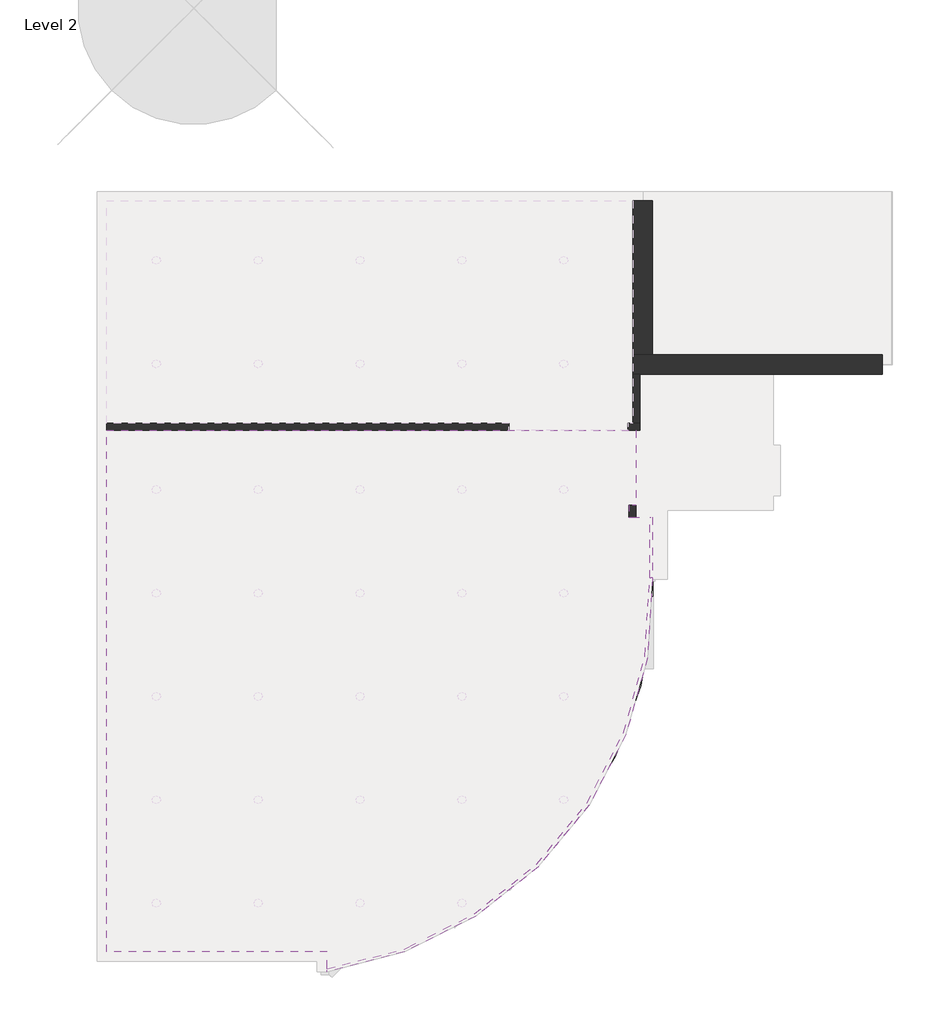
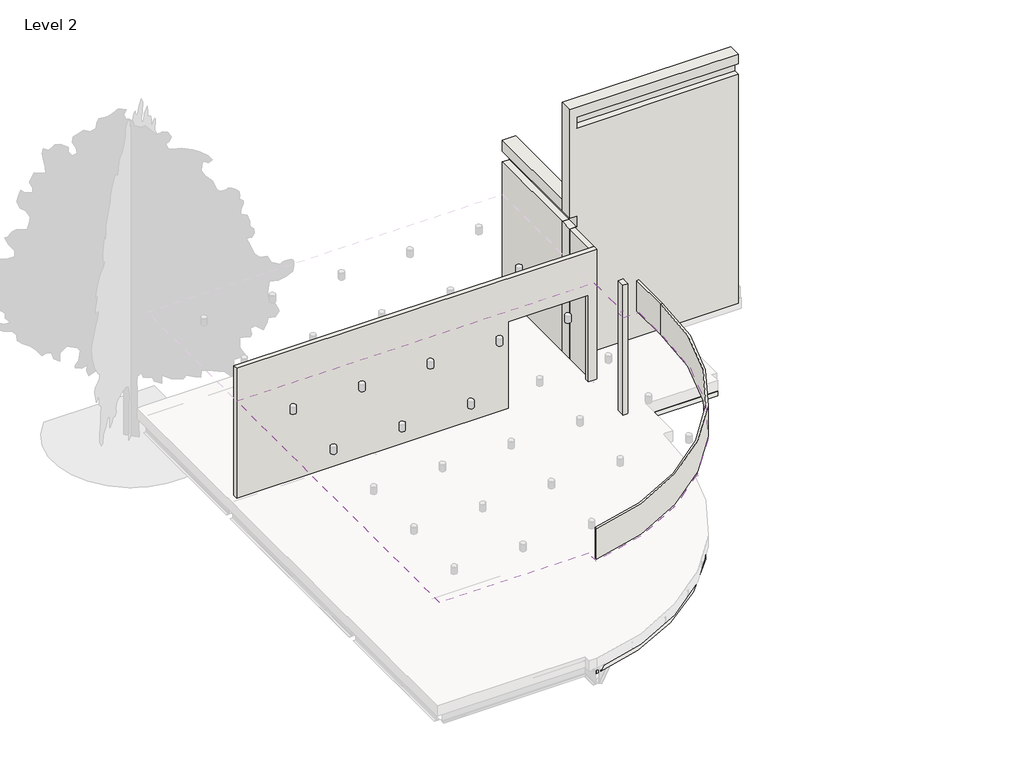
# One storey, part 1 of 2: 7 walls, 1 covering, 1 slab.
"""IFC4 building model written with IfcOpenShell, lengths in millimetres."""

from ifc_helpers import new_model, si_unit, frame, origin, place, context, project, spatial, polyline, circle_curve, outline, extrude, faceted_brep, element, save
from ifc_brep_helpers import plane_surface, cylinder_surface, revolved_surface, advanced_brep

model = new_model("IFC4")

# Units and contexts
model_context = context("Model", 3, world=origin())
ifc_project = project(units=[si_unit("LENGTHUNIT", "METRE", prefix="MILLI")], contexts=[model_context])

# Site, building, storey
site = spatial("IfcSite", under=ifc_project)
building = spatial("IfcBuilding", under=site)
storey = spatial("IfcBuildingStorey", under=building, Name="Level 2", Elevation=49378.0)

# Covering
placement = place(None, origin())
element("IfcCovering", 1, ObjectType="Plain", at=placement, inside=storey, context=model_context, shape_type="AdvancedBrep", body=[
    advanced_brep(
    [(-4404.7653553, 6635.1448262, 52177.8), (-13914.2313072, 6635.1448262, 52177.8), (-13914.2313072, -2725.3748862, 52177.8), (-9951.8313072, -2725.3748862, 52177.8), (-9951.8313072, -3031.298358, 52177.8), (-9951.8313072, -3082.8723614, 52177.8), (-4110.5813072, 3987.6859101, 52177.8), (-4110.5813072, 5078.0001138, 52177.8), (-4161.5813072, 5078.0001138, 52177.8), (-4531.8153553, 5078.0001138, 52177.8), (-4531.8153553, 5293.9251138, 52177.8), (-4404.7653553, 5293.9251138, 52177.8), (-5781.0188072, 3714.1698262, 52177.8), (-5631.0188072, 3714.1698262, 52177.8), (-5781.0188072, 5573.3251138, 52177.8), (-5631.0188072, 5573.3251138, 52177.8), (-7609.8188072, 3714.1698262, 52177.8), (-7459.8188072, 3714.1698262, 52177.8), (-7609.8188072, 5573.3251138, 52177.8), (-7459.8188072, 5573.3251138, 52177.8), (-9438.6188072, 3714.1698262, 52177.8), (-9288.6188072, 3714.1698262, 52177.8), (-9438.6188072, 5573.3251138, 52177.8), (-9288.6188072, 5573.3251138, 52177.8), (-11267.4188072, 3714.1698262, 52177.8), (-11117.4188072, 3714.1698262, 52177.8), (-11267.4188072, 5573.3251138, 52177.8), (-11117.4188072, 5573.3251138, 52177.8), (-13096.2188072, 3714.1698262, 52177.8), (-12946.2188072, 3714.1698262, 52177.8), (-13096.2188072, 5573.3251138, 52177.8), (-12946.2188072, 5573.3251138, 52177.8), (-5781.0188072, 1859.9698262, 52177.8), (-5631.0188072, 1859.9698262, 52177.8), (-7609.8188072, 1859.9698262, 52177.8), (-7459.8188072, 1859.9698262, 52177.8), (-9438.6188072, 1859.9698262, 52177.8), (-9288.6188072, 1859.9698262, 52177.8), (-11267.4188072, 1859.9698262, 52177.8), (-11117.4188072, 1859.9698262, 52177.8), (-13096.2188072, 1859.9698262, 52177.8), (-12946.2188072, 1859.9698262, 52177.8), (-7609.8188072, 5.7698262, 52177.8), (-7459.8188072, 5.7698262, 52177.8), (-9438.6188072, 5.7698262, 52177.8), (-9288.6188072, 5.7698262, 52177.8), (-11267.4188072, 5.7698262, 52177.8), (-11117.4188072, 5.7698262, 52177.8), (-13096.2188072, 5.7698262, 52177.8), (-12946.2188072, 5.7698262, 52177.8), (-7609.8188072, -1848.4301738, 52177.8), (-7459.8188072, -1848.4301738, 52177.8), (-9438.6188072, -1848.4301738, 52177.8), (-9288.6188072, -1848.4301738, 52177.8), (-11267.4188072, -1848.4301738, 52177.8), (-11117.4188072, -1848.4301738, 52177.8), (-13096.2188072, -1848.4301738, 52177.8), (-12946.2188072, -1848.4301738, 52177.8), (-5781.0188072, 5.7698262, 52177.8), (-5631.0188072, 5.7698262, 52177.8), (-4404.7653553, 6635.1448262, 52120.8), (-4404.7653553, 5293.9251138, 52120.8), (-4531.8153553, 5293.9251138, 52120.8), (-4531.8153553, 5078.0001138, 52120.8), (-4110.5813072, 5078.0001138, 52120.8), (-4110.5813072, 3987.6859101, 52120.8), (-9951.8313072, -3082.8723614, 52120.8), (-9951.8313072, -2725.3748862, 52120.8), (-13914.2313072, -2725.3748862, 52120.8), (-13914.2313072, 6635.1448262, 52120.8), (-5781.0188072, 3714.1698262, 52120.8), (-5631.0188072, 3714.1698262, 52120.8), (-5781.0188072, 5573.3251138, 52120.8), (-5631.0188072, 5573.3251138, 52120.8), (-7609.8188072, 3714.1698262, 52120.8), (-7459.8188072, 3714.1698262, 52120.8), (-7609.8188072, 5573.3251138, 52120.8), (-7459.8188072, 5573.3251138, 52120.8), (-9438.6188072, 3714.1698262, 52120.8), (-9288.6188072, 3714.1698262, 52120.8), (-9438.6188072, 5573.3251138, 52120.8), (-9288.6188072, 5573.3251138, 52120.8), (-11267.4188072, 3714.1698262, 52120.8), (-11117.4188072, 3714.1698262, 52120.8), (-11267.4188072, 5573.3251138, 52120.8), (-11117.4188072, 5573.3251138, 52120.8), (-13096.2188072, 3714.1698262, 52120.8), (-12946.2188072, 3714.1698262, 52120.8), (-13096.2188072, 5573.3251138, 52120.8), (-12946.2188072, 5573.3251138, 52120.8), (-5781.0188072, 1859.9698262, 52120.8), (-5631.0188072, 1859.9698262, 52120.8), (-7609.8188072, 1859.9698262, 52120.8), (-7459.8188072, 1859.9698262, 52120.8), (-9438.6188072, 1859.9698262, 52120.8), (-9288.6188072, 1859.9698262, 52120.8), (-11267.4188072, 1859.9698262, 52120.8), (-11117.4188072, 1859.9698262, 52120.8), (-13096.2188072, 1859.9698262, 52120.8), (-12946.2188072, 1859.9698262, 52120.8), (-7609.8188072, 5.7698262, 52120.8), (-7459.8188072, 5.7698262, 52120.8), (-9438.6188072, 5.7698262, 52120.8), (-9288.6188072, 5.7698262, 52120.8), (-11267.4188072, 5.7698262, 52120.8), (-11117.4188072, 5.7698262, 52120.8), (-13096.2188072, 5.7698262, 52120.8), (-12946.2188072, 5.7698262, 52120.8), (-7609.8188072, -1848.4301738, 52120.8), (-7459.8188072, -1848.4301738, 52120.8), (-9438.6188072, -1848.4301738, 52120.8), (-9288.6188072, -1848.4301738, 52120.8), (-11267.4188072, -1848.4301738, 52120.8), (-11117.4188072, -1848.4301738, 52120.8), (-13096.2188072, -1848.4301738, 52120.8), (-12946.2188072, -1848.4301738, 52120.8), (-5781.0188072, 5.7698262, 52120.8), (-5631.0188072, 5.7698262, 52120.8)],
    [
        (0, 1),
        (1, 2),
        (2, 3),
        (3, 4),
        (4, 5),
        (5, 6, circle_curve(frame((-10969.3383655, 3705.8434908, 52177.8), z_axis=(0.0, 0.0, 1.0), x_axis=(1.0, 0.0, 0.0)), 6864.545399)),
        (6, 7),
        (7, 8),
        (8, 9),
        (9, 10),
        (10, 11),
        (11, 0),
        (12, 13, circle_curve(frame((-5706.0188072, 3714.1698262, 52177.8), z_axis=(0.0, 0.0, -1.0), x_axis=(1.0, 0.0, 0.0)), 75.0)),
        (13, 12, circle_curve(frame((-5706.0188072, 3714.1698262, 52177.8), z_axis=(0.0, 0.0, -1.0), x_axis=(1.0, 0.0, 0.0)), 75.0)),
        (14, 15, circle_curve(frame((-5706.0188072, 5573.3251138, 52177.8), z_axis=(0.0, 0.0, -1.0), x_axis=(1.0, 0.0, 0.0)), 75.0)),
        (15, 14, circle_curve(frame((-5706.0188072, 5573.3251138, 52177.8), z_axis=(0.0, 0.0, -1.0), x_axis=(1.0, 0.0, 0.0)), 75.0)),
        (16, 17, circle_curve(frame((-7534.8188072, 3714.1698262, 52177.8), z_axis=(0.0, 0.0, -1.0), x_axis=(1.0, 0.0, 0.0)), 75.0)),
        (17, 16, circle_curve(frame((-7534.8188072, 3714.1698262, 52177.8), z_axis=(0.0, 0.0, -1.0), x_axis=(1.0, 0.0, 0.0)), 75.0)),
        (18, 19, circle_curve(frame((-7534.8188072, 5573.3251138, 52177.8), z_axis=(0.0, 0.0, -1.0), x_axis=(1.0, 0.0, 0.0)), 75.0)),
        (19, 18, circle_curve(frame((-7534.8188072, 5573.3251138, 52177.8), z_axis=(0.0, 0.0, -1.0), x_axis=(1.0, 0.0, 0.0)), 75.0)),
        (20, 21, circle_curve(frame((-9363.6188072, 3714.1698262, 52177.8), z_axis=(0.0, 0.0, -1.0), x_axis=(1.0, 0.0, 0.0)), 75.0)),
        (21, 20, circle_curve(frame((-9363.6188072, 3714.1698262, 52177.8), z_axis=(0.0, 0.0, -1.0), x_axis=(1.0, 0.0, 0.0)), 75.0)),
        (22, 23, circle_curve(frame((-9363.6188072, 5573.3251138, 52177.8), z_axis=(0.0, 0.0, -1.0), x_axis=(1.0, 0.0, 0.0)), 75.0)),
        (23, 22, circle_curve(frame((-9363.6188072, 5573.3251138, 52177.8), z_axis=(0.0, 0.0, -1.0), x_axis=(1.0, 0.0, 0.0)), 75.0)),
        (24, 25, circle_curve(frame((-11192.4188072, 3714.1698262, 52177.8), z_axis=(0.0, 0.0, -1.0), x_axis=(1.0, 0.0, 0.0)), 75.0)),
        (25, 24, circle_curve(frame((-11192.4188072, 3714.1698262, 52177.8), z_axis=(0.0, 0.0, -1.0), x_axis=(1.0, 0.0, 0.0)), 75.0)),
        (26, 27, circle_curve(frame((-11192.4188072, 5573.3251138, 52177.8), z_axis=(0.0, 0.0, -1.0), x_axis=(1.0, 0.0, 0.0)), 75.0)),
        (27, 26, circle_curve(frame((-11192.4188072, 5573.3251138, 52177.8), z_axis=(0.0, 0.0, -1.0), x_axis=(1.0, 0.0, 0.0)), 75.0)),
        (28, 29, circle_curve(frame((-13021.2188072, 3714.1698262, 52177.8), z_axis=(0.0, 0.0, -1.0), x_axis=(1.0, 0.0, 0.0)), 75.0)),
        (29, 28, circle_curve(frame((-13021.2188072, 3714.1698262, 52177.8), z_axis=(0.0, 0.0, -1.0), x_axis=(1.0, 0.0, 0.0)), 75.0)),
        (30, 31, circle_curve(frame((-13021.2188072, 5573.3251138, 52177.8), z_axis=(0.0, 0.0, -1.0), x_axis=(1.0, 0.0, 0.0)), 75.0)),
        (31, 30, circle_curve(frame((-13021.2188072, 5573.3251138, 52177.8), z_axis=(0.0, 0.0, -1.0), x_axis=(1.0, 0.0, 0.0)), 75.0)),
        (32, 33, circle_curve(frame((-5706.0188072, 1859.9698262, 52177.8), z_axis=(0.0, 0.0, -1.0), x_axis=(1.0, 0.0, 0.0)), 75.0)),
        (33, 32, circle_curve(frame((-5706.0188072, 1859.9698262, 52177.8), z_axis=(0.0, 0.0, -1.0), x_axis=(1.0, 0.0, 0.0)), 75.0)),
        (34, 35, circle_curve(frame((-7534.8188072, 1859.9698262, 52177.8), z_axis=(0.0, 0.0, -1.0), x_axis=(1.0, 0.0, 0.0)), 75.0)),
        (35, 34, circle_curve(frame((-7534.8188072, 1859.9698262, 52177.8), z_axis=(0.0, 0.0, -1.0), x_axis=(1.0, 0.0, 0.0)), 75.0)),
        (36, 37, circle_curve(frame((-9363.6188072, 1859.9698262, 52177.8), z_axis=(0.0, 0.0, -1.0), x_axis=(1.0, 0.0, 0.0)), 75.0)),
        (37, 36, circle_curve(frame((-9363.6188072, 1859.9698262, 52177.8), z_axis=(0.0, 0.0, -1.0), x_axis=(1.0, 0.0, 0.0)), 75.0)),
        (38, 39, circle_curve(frame((-11192.4188072, 1859.9698262, 52177.8), z_axis=(0.0, 0.0, -1.0), x_axis=(1.0, 0.0, 0.0)), 75.0)),
        (39, 38, circle_curve(frame((-11192.4188072, 1859.9698262, 52177.8), z_axis=(0.0, 0.0, -1.0), x_axis=(1.0, 0.0, 0.0)), 75.0)),
        (40, 41, circle_curve(frame((-13021.2188072, 1859.9698262, 52177.8), z_axis=(0.0, 0.0, -1.0), x_axis=(1.0, 0.0, 0.0)), 75.0)),
        (41, 40, circle_curve(frame((-13021.2188072, 1859.9698262, 52177.8), z_axis=(0.0, 0.0, -1.0), x_axis=(1.0, 0.0, 0.0)), 75.0)),
        (42, 43, circle_curve(frame((-7534.8188072, 5.7698262, 52177.8), z_axis=(0.0, 0.0, -1.0), x_axis=(1.0, 0.0, 0.0)), 75.0)),
        (43, 42, circle_curve(frame((-7534.8188072, 5.7698262, 52177.8), z_axis=(0.0, 0.0, -1.0), x_axis=(1.0, 0.0, 0.0)), 75.0)),
        (44, 45, circle_curve(frame((-9363.6188072, 5.7698262, 52177.8), z_axis=(0.0, 0.0, -1.0), x_axis=(1.0, 0.0, 0.0)), 75.0)),
        (45, 44, circle_curve(frame((-9363.6188072, 5.7698262, 52177.8), z_axis=(0.0, 0.0, -1.0), x_axis=(1.0, 0.0, 0.0)), 75.0)),
        (46, 47, circle_curve(frame((-11192.4188072, 5.7698262, 52177.8), z_axis=(0.0, 0.0, -1.0), x_axis=(1.0, 0.0, 0.0)), 75.0)),
        (47, 46, circle_curve(frame((-11192.4188072, 5.7698262, 52177.8), z_axis=(0.0, 0.0, -1.0), x_axis=(1.0, 0.0, 0.0)), 75.0)),
        (48, 49, circle_curve(frame((-13021.2188072, 5.7698262, 52177.8), z_axis=(0.0, 0.0, -1.0), x_axis=(1.0, 0.0, 0.0)), 75.0)),
        (49, 48, circle_curve(frame((-13021.2188072, 5.7698262, 52177.8), z_axis=(0.0, 0.0, -1.0), x_axis=(1.0, 0.0, 0.0)), 75.0)),
        (50, 51, circle_curve(frame((-7534.8188072, -1848.4301738, 52177.8), z_axis=(0.0, 0.0, -1.0), x_axis=(1.0, 0.0, 0.0)), 75.0)),
        (51, 50, circle_curve(frame((-7534.8188072, -1848.4301738, 52177.8), z_axis=(0.0, 0.0, -1.0), x_axis=(1.0, 0.0, 0.0)), 75.0)),
        (52, 53, circle_curve(frame((-9363.6188072, -1848.4301738, 52177.8), z_axis=(0.0, 0.0, -1.0), x_axis=(1.0, 0.0, 0.0)), 75.0)),
        (53, 52, circle_curve(frame((-9363.6188072, -1848.4301738, 52177.8), z_axis=(0.0, 0.0, -1.0), x_axis=(1.0, 0.0, 0.0)), 75.0)),
        (54, 55, circle_curve(frame((-11192.4188072, -1848.4301738, 52177.8), z_axis=(0.0, 0.0, -1.0), x_axis=(1.0, 0.0, 0.0)), 75.0)),
        (55, 54, circle_curve(frame((-11192.4188072, -1848.4301738, 52177.8), z_axis=(0.0, 0.0, -1.0), x_axis=(1.0, 0.0, 0.0)), 75.0)),
        (56, 57, circle_curve(frame((-13021.2188072, -1848.4301738, 52177.8), z_axis=(0.0, 0.0, -1.0), x_axis=(1.0, 0.0, 0.0)), 75.0)),
        (57, 56, circle_curve(frame((-13021.2188072, -1848.4301738, 52177.8), z_axis=(0.0, 0.0, -1.0), x_axis=(1.0, 0.0, 0.0)), 75.0)),
        (58, 59, circle_curve(frame((-5706.0188072, 5.7698262, 52177.8), z_axis=(0.0, 0.0, -1.0), x_axis=(1.0, 0.0, 0.0)), 75.0)),
        (59, 58, circle_curve(frame((-5706.0188072, 5.7698262, 52177.8), z_axis=(0.0, 0.0, -1.0), x_axis=(1.0, 0.0, 0.0)), 75.0)),
        (60, 61),
        (61, 62),
        (62, 63),
        (63, 64),
        (64, 65),
        (65, 66, circle_curve(frame((-10969.3383655, 3705.8434908, 52120.8), z_axis=(0.0, 0.0, -1.0), x_axis=(1.0, 0.0, 0.0)), 6864.545399)),
        (66, 67),
        (67, 68),
        (68, 69),
        (69, 60),
        (70, 71, circle_curve(frame((-5706.0188072, 3714.1698262, 52120.8), z_axis=(0.0, 0.0, 1.0), x_axis=(1.0, 0.0, 0.0)), 75.0)),
        (71, 70, circle_curve(frame((-5706.0188072, 3714.1698262, 52120.8), z_axis=(0.0, 0.0, 1.0), x_axis=(1.0, 0.0, 0.0)), 75.0)),
        (72, 73, circle_curve(frame((-5706.0188072, 5573.3251138, 52120.8), z_axis=(0.0, 0.0, 1.0), x_axis=(1.0, 0.0, 0.0)), 75.0)),
        (73, 72, circle_curve(frame((-5706.0188072, 5573.3251138, 52120.8), z_axis=(0.0, 0.0, 1.0), x_axis=(1.0, 0.0, 0.0)), 75.0)),
        (74, 75, circle_curve(frame((-7534.8188072, 3714.1698262, 52120.8), z_axis=(0.0, 0.0, 1.0), x_axis=(1.0, 0.0, 0.0)), 75.0)),
        (75, 74, circle_curve(frame((-7534.8188072, 3714.1698262, 52120.8), z_axis=(0.0, 0.0, 1.0), x_axis=(1.0, 0.0, 0.0)), 75.0)),
        (76, 77, circle_curve(frame((-7534.8188072, 5573.3251138, 52120.8), z_axis=(0.0, 0.0, 1.0), x_axis=(1.0, 0.0, 0.0)), 75.0)),
        (77, 76, circle_curve(frame((-7534.8188072, 5573.3251138, 52120.8), z_axis=(0.0, 0.0, 1.0), x_axis=(1.0, 0.0, 0.0)), 75.0)),
        (78, 79, circle_curve(frame((-9363.6188072, 3714.1698262, 52120.8), z_axis=(0.0, 0.0, 1.0), x_axis=(1.0, 0.0, 0.0)), 75.0)),
        (79, 78, circle_curve(frame((-9363.6188072, 3714.1698262, 52120.8), z_axis=(0.0, 0.0, 1.0), x_axis=(1.0, 0.0, 0.0)), 75.0)),
        (80, 81, circle_curve(frame((-9363.6188072, 5573.3251138, 52120.8), z_axis=(0.0, 0.0, 1.0), x_axis=(1.0, 0.0, 0.0)), 75.0)),
        (81, 80, circle_curve(frame((-9363.6188072, 5573.3251138, 52120.8), z_axis=(0.0, 0.0, 1.0), x_axis=(1.0, 0.0, 0.0)), 75.0)),
        (82, 83, circle_curve(frame((-11192.4188072, 3714.1698262, 52120.8), z_axis=(0.0, 0.0, 1.0), x_axis=(1.0, 0.0, 0.0)), 75.0)),
        (83, 82, circle_curve(frame((-11192.4188072, 3714.1698262, 52120.8), z_axis=(0.0, 0.0, 1.0), x_axis=(1.0, 0.0, 0.0)), 75.0)),
        (84, 85, circle_curve(frame((-11192.4188072, 5573.3251138, 52120.8), z_axis=(0.0, 0.0, 1.0), x_axis=(1.0, 0.0, 0.0)), 75.0)),
        (85, 84, circle_curve(frame((-11192.4188072, 5573.3251138, 52120.8), z_axis=(0.0, 0.0, 1.0), x_axis=(1.0, 0.0, 0.0)), 75.0)),
        (86, 87, circle_curve(frame((-13021.2188072, 3714.1698262, 52120.8), z_axis=(0.0, 0.0, 1.0), x_axis=(1.0, 0.0, 0.0)), 75.0)),
        (87, 86, circle_curve(frame((-13021.2188072, 3714.1698262, 52120.8), z_axis=(0.0, 0.0, 1.0), x_axis=(1.0, 0.0, 0.0)), 75.0)),
        (88, 89, circle_curve(frame((-13021.2188072, 5573.3251138, 52120.8), z_axis=(0.0, 0.0, 1.0), x_axis=(1.0, 0.0, 0.0)), 75.0)),
        (89, 88, circle_curve(frame((-13021.2188072, 5573.3251138, 52120.8), z_axis=(0.0, 0.0, 1.0), x_axis=(1.0, 0.0, 0.0)), 75.0)),
        (90, 91, circle_curve(frame((-5706.0188072, 1859.9698262, 52120.8), z_axis=(0.0, 0.0, 1.0), x_axis=(1.0, 0.0, 0.0)), 75.0)),
        (91, 90, circle_curve(frame((-5706.0188072, 1859.9698262, 52120.8), z_axis=(0.0, 0.0, 1.0), x_axis=(1.0, 0.0, 0.0)), 75.0)),
        (92, 93, circle_curve(frame((-7534.8188072, 1859.9698262, 52120.8), z_axis=(0.0, 0.0, 1.0), x_axis=(1.0, 0.0, 0.0)), 75.0)),
        (93, 92, circle_curve(frame((-7534.8188072, 1859.9698262, 52120.8), z_axis=(0.0, 0.0, 1.0), x_axis=(1.0, 0.0, 0.0)), 75.0)),
        (94, 95, circle_curve(frame((-9363.6188072, 1859.9698262, 52120.8), z_axis=(0.0, 0.0, 1.0), x_axis=(1.0, 0.0, 0.0)), 75.0)),
        (95, 94, circle_curve(frame((-9363.6188072, 1859.9698262, 52120.8), z_axis=(0.0, 0.0, 1.0), x_axis=(1.0, 0.0, 0.0)), 75.0)),
        (96, 97, circle_curve(frame((-11192.4188072, 1859.9698262, 52120.8), z_axis=(0.0, 0.0, 1.0), x_axis=(1.0, 0.0, 0.0)), 75.0)),
        (97, 96, circle_curve(frame((-11192.4188072, 1859.9698262, 52120.8), z_axis=(0.0, 0.0, 1.0), x_axis=(1.0, 0.0, 0.0)), 75.0)),
        (98, 99, circle_curve(frame((-13021.2188072, 1859.9698262, 52120.8), z_axis=(0.0, 0.0, 1.0), x_axis=(1.0, 0.0, 0.0)), 75.0)),
        (99, 98, circle_curve(frame((-13021.2188072, 1859.9698262, 52120.8), z_axis=(0.0, 0.0, 1.0), x_axis=(1.0, 0.0, 0.0)), 75.0)),
        (100, 101, circle_curve(frame((-7534.8188072, 5.7698262, 52120.8), z_axis=(0.0, 0.0, 1.0), x_axis=(1.0, 0.0, 0.0)), 75.0)),
        (101, 100, circle_curve(frame((-7534.8188072, 5.7698262, 52120.8), z_axis=(0.0, 0.0, 1.0), x_axis=(1.0, 0.0, 0.0)), 75.0)),
        (102, 103, circle_curve(frame((-9363.6188072, 5.7698262, 52120.8), z_axis=(0.0, 0.0, 1.0), x_axis=(1.0, 0.0, 0.0)), 75.0)),
        (103, 102, circle_curve(frame((-9363.6188072, 5.7698262, 52120.8), z_axis=(0.0, 0.0, 1.0), x_axis=(1.0, 0.0, 0.0)), 75.0)),
        (104, 105, circle_curve(frame((-11192.4188072, 5.7698262, 52120.8), z_axis=(0.0, 0.0, 1.0), x_axis=(1.0, 0.0, 0.0)), 75.0)),
        (105, 104, circle_curve(frame((-11192.4188072, 5.7698262, 52120.8), z_axis=(0.0, 0.0, 1.0), x_axis=(1.0, 0.0, 0.0)), 75.0)),
        (106, 107, circle_curve(frame((-13021.2188072, 5.7698262, 52120.8), z_axis=(0.0, 0.0, 1.0), x_axis=(1.0, 0.0, 0.0)), 75.0)),
        (107, 106, circle_curve(frame((-13021.2188072, 5.7698262, 52120.8), z_axis=(0.0, 0.0, 1.0), x_axis=(1.0, 0.0, 0.0)), 75.0)),
        (108, 109, circle_curve(frame((-7534.8188072, -1848.4301738, 52120.8), z_axis=(0.0, 0.0, 1.0), x_axis=(1.0, 0.0, 0.0)), 75.0)),
        (109, 108, circle_curve(frame((-7534.8188072, -1848.4301738, 52120.8), z_axis=(0.0, 0.0, 1.0), x_axis=(1.0, 0.0, 0.0)), 75.0)),
        (110, 111, circle_curve(frame((-9363.6188072, -1848.4301738, 52120.8), z_axis=(0.0, 0.0, 1.0), x_axis=(1.0, 0.0, 0.0)), 75.0)),
        (111, 110, circle_curve(frame((-9363.6188072, -1848.4301738, 52120.8), z_axis=(0.0, 0.0, 1.0), x_axis=(1.0, 0.0, 0.0)), 75.0)),
        (112, 113, circle_curve(frame((-11192.4188072, -1848.4301738, 52120.8), z_axis=(0.0, 0.0, 1.0), x_axis=(1.0, 0.0, 0.0)), 75.0)),
        (113, 112, circle_curve(frame((-11192.4188072, -1848.4301738, 52120.8), z_axis=(0.0, 0.0, 1.0), x_axis=(1.0, 0.0, 0.0)), 75.0)),
        (114, 115, circle_curve(frame((-13021.2188072, -1848.4301738, 52120.8), z_axis=(0.0, 0.0, 1.0), x_axis=(1.0, 0.0, 0.0)), 75.0)),
        (115, 114, circle_curve(frame((-13021.2188072, -1848.4301738, 52120.8), z_axis=(0.0, 0.0, 1.0), x_axis=(1.0, 0.0, 0.0)), 75.0)),
        (116, 117, circle_curve(frame((-5706.0188072, 5.7698262, 52120.8), z_axis=(0.0, 0.0, 1.0), x_axis=(1.0, 0.0, 0.0)), 75.0)),
        (117, 116, circle_curve(frame((-5706.0188072, 5.7698262, 52120.8), z_axis=(0.0, 0.0, 1.0), x_axis=(1.0, 0.0, 0.0)), 75.0)),
        (0, 60),
        (69, 1),
        (68, 2),
        (67, 3),
        (66, 5),
        (65, 6),
        (64, 7),
        (63, 9),
        (62, 10),
        (61, 11),
        (70, 12),
        (13, 71),
        (72, 14),
        (15, 73),
        (74, 16),
        (17, 75),
        (76, 18),
        (19, 77),
        (78, 20),
        (21, 79),
        (80, 22),
        (23, 81),
        (82, 24),
        (25, 83),
        (84, 26),
        (27, 85),
        (86, 28),
        (29, 87),
        (88, 30),
        (31, 89),
        (90, 32),
        (33, 91),
        (92, 34),
        (35, 93),
        (94, 36),
        (37, 95),
        (96, 38),
        (39, 97),
        (98, 40),
        (41, 99),
        (100, 42),
        (43, 101),
        (102, 44),
        (45, 103),
        (104, 46),
        (47, 105),
        (106, 48),
        (49, 107),
        (108, 50),
        (51, 109),
        (110, 52),
        (53, 111),
        (112, 54),
        (55, 113),
        (114, 56),
        (57, 115),
        (116, 58),
        (59, 117),
    ],
    [
        plane_surface(frame((-13914.2313072, 6635.1448262, 52177.8), z_axis=(0.0, 0.0, 1.0), x_axis=(-1.0, 0.0, 0.0))),
        plane_surface(frame((-13914.2313072, 6635.1448262, 52120.8), z_axis=(0.0, 0.0, -1.0), x_axis=(1.0, 0.0, 0.0))),
        plane_surface(frame((-4404.7653553, 6635.1448262, 52177.8), z_axis=(0.0, 1.0, 0.0), x_axis=(0.0, 0.0, -1.0))),
        plane_surface(frame((-13914.2313072, 6635.1448262, 52177.8), z_axis=(-1.0, 0.0, 0.0), x_axis=(0.0, 0.0, -1.0))),
        plane_surface(frame((-13914.2313072, -2725.3748862, 52177.8), z_axis=(0.0, -1.0, 0.0), x_axis=(0.0, 0.0, -1.0))),
        plane_surface(frame((-9951.8313072, -2725.3748862, 52177.8), z_axis=(-1.0, 0.0, 0.0), x_axis=(0.0, 0.0, -1.0))),
        cylinder_surface(frame((-10969.3383655, 3705.8434908, 52120.8), z_axis=(0.0, 0.0, 1.0), x_axis=(1.0, 0.0, 0.0)), 6864.545399),
        plane_surface(frame((-4110.5813072, 3987.6859101, 52177.8), z_axis=(1.0, 0.0, 0.0), x_axis=(0.0, 0.0, -1.0))),
        plane_surface(frame((-4110.5813072, 5078.0001138, 52177.8), z_axis=(0.0, 1.0, 0.0), x_axis=(0.0, 0.0, -1.0))),
        plane_surface(frame((-4531.8153553, 5078.0001138, 52177.8), z_axis=(1.0, 0.0, 0.0), x_axis=(0.0, 0.0, -1.0))),
        plane_surface(frame((-4531.8153553, 5293.9251138, 52177.8), z_axis=(0.0, -1.0, 0.0), x_axis=(0.0, 0.0, -1.0))),
        plane_surface(frame((-4404.7653553, 5293.9251138, 52177.8), z_axis=(1.0, 0.0, 0.0), x_axis=(0.0, 0.0, -1.0))),
        revolved_surface(polyline([(-5631.0188072, 3714.1698262, 52177.8), (-5631.0188072, 3714.1698262, 52120.8)]), (-5706.0188072, 3714.1698262, 52120.8), (0.0, 0.0, 1.0)),
        revolved_surface(polyline([(-5631.0188072, 5573.3251138, 52177.8), (-5631.0188072, 5573.3251138, 52120.8)]), (-5706.0188072, 5573.3251138, 52120.8), (0.0, 0.0, 1.0)),
        revolved_surface(polyline([(-7459.8188072, 3714.1698262, 52177.8), (-7459.8188072, 3714.1698262, 52120.8)]), (-7534.8188072, 3714.1698262, 52120.8), (0.0, 0.0, 1.0)),
        revolved_surface(polyline([(-7459.8188072, 5573.3251138, 52177.8), (-7459.8188072, 5573.3251138, 52120.8)]), (-7534.8188072, 5573.3251138, 52120.8), (0.0, 0.0, 1.0)),
        revolved_surface(polyline([(-9288.6188072, 3714.1698262, 52177.8), (-9288.6188072, 3714.1698262, 52120.8)]), (-9363.6188072, 3714.1698262, 52120.8), (0.0, 0.0, 1.0)),
        revolved_surface(polyline([(-9288.6188072, 5573.3251138, 52177.8), (-9288.6188072, 5573.3251138, 52120.8)]), (-9363.6188072, 5573.3251138, 52120.8), (0.0, 0.0, 1.0)),
        revolved_surface(polyline([(-11117.4188072, 3714.1698262, 52177.8), (-11117.4188072, 3714.1698262, 52120.8)]), (-11192.4188072, 3714.1698262, 52120.8), (0.0, 0.0, 1.0)),
        revolved_surface(polyline([(-11117.4188072, 5573.3251138, 52177.8), (-11117.4188072, 5573.3251138, 52120.8)]), (-11192.4188072, 5573.3251138, 52120.8), (0.0, 0.0, 1.0)),
        revolved_surface(polyline([(-12946.2188072, 3714.1698262, 52177.8), (-12946.2188072, 3714.1698262, 52120.8)]), (-13021.2188072, 3714.1698262, 52120.8), (0.0, 0.0, 1.0)),
        revolved_surface(polyline([(-12946.2188072, 5573.3251138, 52177.8), (-12946.2188072, 5573.3251138, 52120.8)]), (-13021.2188072, 5573.3251138, 52120.8), (0.0, 0.0, 1.0)),
        revolved_surface(polyline([(-5631.0188072, 1859.9698262, 52177.8), (-5631.0188072, 1859.9698262, 52120.8)]), (-5706.0188072, 1859.9698262, 52120.8), (0.0, 0.0, 1.0)),
        revolved_surface(polyline([(-7459.8188072, 1859.9698262, 52177.8), (-7459.8188072, 1859.9698262, 52120.8)]), (-7534.8188072, 1859.9698262, 52120.8), (0.0, 0.0, 1.0)),
        revolved_surface(polyline([(-9288.6188072, 1859.9698262, 52177.8), (-9288.6188072, 1859.9698262, 52120.8)]), (-9363.6188072, 1859.9698262, 52120.8), (0.0, 0.0, 1.0)),
        revolved_surface(polyline([(-11117.4188072, 1859.9698262, 52177.8), (-11117.4188072, 1859.9698262, 52120.8)]), (-11192.4188072, 1859.9698262, 52120.8), (0.0, 0.0, 1.0)),
        revolved_surface(polyline([(-12946.2188072, 1859.9698262, 52177.8), (-12946.2188072, 1859.9698262, 52120.8)]), (-13021.2188072, 1859.9698262, 52120.8), (0.0, 0.0, 1.0)),
        revolved_surface(polyline([(-7459.8188072, 5.7698262, 52177.8), (-7459.8188072, 5.7698262, 52120.8)]), (-7534.8188072, 5.7698262, 52120.8), (0.0, 0.0, 1.0)),
        revolved_surface(polyline([(-9288.6188072, 5.7698262, 52177.8), (-9288.6188072, 5.7698262, 52120.8)]), (-9363.6188072, 5.7698262, 52120.8), (0.0, 0.0, 1.0)),
        revolved_surface(polyline([(-11117.4188072, 5.7698262, 52177.8), (-11117.4188072, 5.7698262, 52120.8)]), (-11192.4188072, 5.7698262, 52120.8), (0.0, 0.0, 1.0)),
        revolved_surface(polyline([(-12946.2188072, 5.7698262, 52177.8), (-12946.2188072, 5.7698262, 52120.8)]), (-13021.2188072, 5.7698262, 52120.8), (0.0, 0.0, 1.0)),
        revolved_surface(polyline([(-7459.8188072, -1848.4301738, 52177.8), (-7459.8188072, -1848.4301738, 52120.8)]), (-7534.8188072, -1848.4301738, 52120.8), (0.0, 0.0, 1.0)),
        revolved_surface(polyline([(-9288.6188072, -1848.4301738, 52177.8), (-9288.6188072, -1848.4301738, 52120.8)]), (-9363.6188072, -1848.4301738, 52120.8), (0.0, 0.0, 1.0)),
        revolved_surface(polyline([(-11117.4188072, -1848.4301738, 52177.8), (-11117.4188072, -1848.4301738, 52120.8)]), (-11192.4188072, -1848.4301738, 52120.8), (0.0, 0.0, 1.0)),
        revolved_surface(polyline([(-12946.2188072, -1848.4301738, 52177.8), (-12946.2188072, -1848.4301738, 52120.8)]), (-13021.2188072, -1848.4301738, 52120.8), (0.0, 0.0, 1.0)),
        revolved_surface(polyline([(-5631.0188072, 5.7698262, 52177.8), (-5631.0188072, 5.7698262, 52120.8)]), (-5706.0188072, 5.7698262, 52120.8), (0.0, 0.0, 1.0)),
    ],
    [
        (0, [[1, 2, 3, 4, 5, 6, 7, 8, 9, 10, 11, 12], [13, 14], [15, 16], [17, 18], [19, 20], [21, 22], [23, 24], [25, 26], [27, 28], [29, 30], [31, 32], [33, 34], [35, 36], [37, 38], [39, 40], [41, 42], [43, 44], [45, 46], [47, 48], [49, 50], [51, 52], [53, 54], [55, 56], [57, 58], [59, 60]]),
        (1, [[61, 62, 63, 64, 65, 66, 67, 68, 69, 70], [71, 72], [73, 74], [75, 76], [77, 78], [79, 80], [81, 82], [83, 84], [85, 86], [87, 88], [89, 90], [91, 92], [93, 94], [95, 96], [97, 98], [99, 100], [101, 102], [103, 104], [105, 106], [107, 108], [109, 110], [111, 112], [113, 114], [115, 116], [117, 118]]),
        (2, [[-1, 119, -70, 120]]),
        (3, [[-2, -120, -69, 121]]),
        (4, [[-3, -121, -68, 122]]),
        (5, [[-5, -4, -122, -67, 123]]),
        (6, [[-6, -123, -66, 124]]),
        (7, [[-7, -124, -65, 125]]),
        (8, [[-9, -8, -125, -64, 126]]),
        (9, [[-10, -126, -63, 127]]),
        (10, [[-11, -127, -62, 128]]),
        (11, [[-12, -128, -61, -119]]),
        (12, [[-71, 129, -14, 130]]),
        (12, [[-72, -130, -13, -129]]),
        (13, [[-73, 131, -16, 132]]),
        (13, [[-74, -132, -15, -131]]),
        (14, [[-75, 133, -18, 134]]),
        (14, [[-76, -134, -17, -133]]),
        (15, [[-77, 135, -20, 136]]),
        (15, [[-78, -136, -19, -135]]),
        (16, [[-79, 137, -22, 138]]),
        (16, [[-80, -138, -21, -137]]),
        (17, [[-81, 139, -24, 140]]),
        (17, [[-82, -140, -23, -139]]),
        (18, [[-83, 141, -26, 142]]),
        (18, [[-84, -142, -25, -141]]),
        (19, [[-85, 143, -28, 144]]),
        (19, [[-86, -144, -27, -143]]),
        (20, [[-87, 145, -30, 146]]),
        (20, [[-88, -146, -29, -145]]),
        (21, [[-89, 147, -32, 148]]),
        (21, [[-90, -148, -31, -147]]),
        (22, [[-91, 149, -34, 150]]),
        (22, [[-92, -150, -33, -149]]),
        (23, [[-93, 151, -36, 152]]),
        (23, [[-94, -152, -35, -151]]),
        (24, [[-95, 153, -38, 154]]),
        (24, [[-96, -154, -37, -153]]),
        (25, [[-97, 155, -40, 156]]),
        (25, [[-98, -156, -39, -155]]),
        (26, [[-99, 157, -42, 158]]),
        (26, [[-100, -158, -41, -157]]),
        (27, [[-101, 159, -44, 160]]),
        (27, [[-102, -160, -43, -159]]),
        (28, [[-103, 161, -46, 162]]),
        (28, [[-104, -162, -45, -161]]),
        (29, [[-105, 163, -48, 164]]),
        (29, [[-106, -164, -47, -163]]),
        (30, [[-107, 165, -50, 166]]),
        (30, [[-108, -166, -49, -165]]),
        (31, [[-109, 167, -52, 168]]),
        (31, [[-110, -168, -51, -167]]),
        (32, [[-111, 169, -54, 170]]),
        (32, [[-112, -170, -53, -169]]),
        (33, [[-113, 171, -56, 172]]),
        (33, [[-114, -172, -55, -171]]),
        (34, [[-115, 173, -58, 174]]),
        (34, [[-116, -174, -57, -173]]),
        (35, [[-117, 175, -60, 176]]),
        (35, [[-118, -176, -59, -175]]),
    ],
),
])

# Slab
element("IfcSlab", 2, ObjectType="70mm LW Concrete on 50.8mm Composite Metal Deck", at=placement, inside=storey, context=model_context, shape_type="AdvancedBrep", body=[
    advanced_brep(
    [(-13914.2313072, 10757.3501138, 48945.8), (-1942.0813072, 10757.3501138, 48945.8), (-1942.0813072, 8380.0501138, 48945.8), (-1942.0813072, 8253.0001138, 48945.8), (-1942.0813072, 5205.0501138, 48945.8), (-4107.3838512, 5205.0501138, 48945.8), (-4107.3838512, 3375.060795, 48945.8), (-9951.8313072, -3075.3748862, 48945.8), (-9951.8313072, -2725.3748862, 48945.8), (-13914.2313072, -2725.3748862, 48945.8), (-13914.2313072, 6754.4001138, 48945.8), (-13914.2313072, 6881.4501138, 48945.8), (-13914.2313072, 10757.3501138, 49072.8), (-13914.2313072, 6881.4501138, 49072.8), (-13914.2313072, 6754.4001138, 49072.8), (-13914.2313072, -2725.3748862, 49072.8), (-9951.8313072, -2725.3748862, 49072.8), (-9951.8313072, -3075.3748862, 49072.8), (-4107.3838512, 3375.060795, 49072.8), (-4107.3838512, 5205.0501138, 49072.8), (-1942.0813072, 5205.0501138, 49072.8), (-1942.0813072, 8253.0001138, 49072.8), (-1942.0813072, 8380.0501138, 49072.8), (-1942.0813072, 10757.3501138, 49072.8)],
    [
        (0, 1),
        (1, 2),
        (2, 3),
        (3, 4),
        (4, 5),
        (5, 6),
        (6, 7, circle_curve(frame((-11057.5667553, 3799.3942286, 48945.8), z_axis=(0.0, 0.0, -1.0), x_axis=(1.0, 0.0, 0.0)), 6963.1243895)),
        (7, 8),
        (8, 9),
        (9, 10),
        (10, 11),
        (11, 0),
        (12, 13),
        (13, 14),
        (14, 15),
        (15, 16),
        (16, 17),
        (17, 18, circle_curve(frame((-11057.5667553, 3799.3942286, 49072.8), z_axis=(0.0, 0.0, 1.0), x_axis=(1.0, 0.0, 0.0)), 6963.1243895)),
        (18, 19),
        (19, 20),
        (20, 21),
        (21, 22),
        (22, 23),
        (23, 12),
        (0, 12),
        (23, 1),
        (20, 4),
        (19, 5),
        (18, 6),
        (17, 7),
        (16, 8),
        (15, 9),
    ],
    [
        plane_surface(frame((-13914.2313072, 10757.3501138, 48945.8), z_axis=(0.0, 0.0, -1.0), x_axis=(1.0, 0.0, 0.0))),
        plane_surface(frame((-13914.2313072, 10757.3501138, 49072.8), z_axis=(0.0, 0.0, 1.0), x_axis=(-1.0, 0.0, 0.0))),
        plane_surface(frame((-13914.2313072, 10757.3501138, 48945.8), z_axis=(0.0, 1.0, 0.0), x_axis=(0.0, 0.0, 1.0))),
        plane_surface(frame((-1942.0813072, 10757.3501138, 48945.8), z_axis=(1.0, 0.0, 0.0), x_axis=(0.0, 0.0, 1.0))),
        plane_surface(frame((-1942.0813072, 5205.0501138, 48945.8), z_axis=(0.0, -1.0, 0.0), x_axis=(0.0, 0.0, 1.0))),
        plane_surface(frame((-4107.3838512, 5205.0501138, 48945.8), z_axis=(1.0, 0.0, 0.0), x_axis=(0.0, 0.0, 1.0))),
        cylinder_surface(frame((-11057.5667553, 3799.3942286, 49072.8), z_axis=(0.0, 0.0, -1.0), x_axis=(1.0, 0.0, 0.0)), 6963.1243895),
        plane_surface(frame((-9951.8313072, -3075.3748862, 48945.8), z_axis=(-1.0, 0.0, 0.0), x_axis=(0.0, 0.0, 1.0))),
        plane_surface(frame((-9951.8313072, -2725.3748862, 48945.8), z_axis=(0.0, -1.0, 0.0), x_axis=(0.0, 0.0, 1.0))),
        plane_surface(frame((-13914.2313072, -2725.3748862, 48945.8), z_axis=(-1.0, 0.0, 0.0), x_axis=(0.0, 0.0, 1.0))),
    ],
    [
        (0, [[1, 2, 3, 4, 5, 6, 7, 8, 9, 10, 11, 12]]),
        (1, [[13, 14, 15, 16, 17, 18, 19, 20, 21, 22, 23, 24]]),
        (2, [[-1, 25, -24, 26]]),
        (3, [[-4, -3, -2, -26, -23, -22, -21, 27]]),
        (4, [[-5, -27, -20, 28]]),
        (5, [[-6, -28, -19, 29]]),
        (6, [[-7, -29, -18, 30]]),
        (7, [[-8, -30, -17, 31]]),
        (8, [[-9, -31, -16, 32]]),
        (9, [[-12, -11, -10, -32, -15, -14, -13, -25]]),
    ],
),
])

# Walls
element("IfcWall", 3, ObjectType="Soffit - 13mm GWB & Metal Stud", at=placement, inside=storey, context=model_context, shape_type="AdvancedBrep", body=[
    advanced_brep(
    [(-9951.8313072, -3031.298358, 53035.2), (-4161.5808142, 3986.6245915, 53035.2), (-4161.5812765, 3986.6357987, 52177.8), (-9951.8313072, -3031.298358, 52177.8), (-4110.5813072, 3987.6859101, 53035.2), (-9951.8313072, -3082.8723614, 53035.2), (-9951.8313072, -3082.8723614, 52177.8), (-4110.5813072, 3987.6859101, 52177.8), (-9951.8313072, -3075.3748862, 53035.2)],
    [
        (0, 1, circle_curve(frame((-10969.3383655, 3705.8434908, 53035.2), z_axis=(0.0, 0.0, 1.0), x_axis=(1.0, 0.0, 0.0)), 6813.545399)),
        (1, 2),
        (2, 3, circle_curve(frame((-10969.3383655, 3705.8434908, 52177.8), z_axis=(0.0, 0.0, -1.0), x_axis=(1.0, 0.0, 0.0)), 6813.545399)),
        (3, 0),
        (4, 5, circle_curve(frame((-10969.3383655, 3705.8434908, 53035.2), z_axis=(0.0, 0.0, -1.0), x_axis=(1.0, 0.0, 0.0)), 6864.545399)),
        (5, 6),
        (6, 7, circle_curve(frame((-10969.3383655, 3705.8434908, 52177.8), z_axis=(0.0, 0.0, 1.0), x_axis=(1.0, 0.0, 0.0)), 6864.545399)),
        (7, 4),
        (5, 8),
        (8, 0),
        (3, 6),
        (1, 4),
        (7, 2),
    ],
    [
        revolved_surface(polyline([(-4155.7929665, 3705.8434908, 52177.8), (-4155.7929665, 3705.8434908, 53035.2)]), (-10969.3383655, 3705.8434908, 52120.8), (0.0, 0.0, -1.0)),
        cylinder_surface(frame((-10969.3383655, 3705.8434908, 52120.8), z_axis=(0.0, 0.0, 1.0), x_axis=(1.0, 0.0, 0.0)), 6864.545399),
        plane_surface(frame((-9951.8313072, -8228.3998862, 45720.0), z_axis=(-1.0, 0.0, 0.0), x_axis=(0.0, 1.0, 0.0))),
        plane_surface(frame((-4110.5813072, 3987.6859101, 49378.0), z_axis=(-0.02057145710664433, 0.99978838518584, 0.0), x_axis=(-0.99978838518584, -0.02057145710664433, 0.0))),
        plane_surface(frame((-4457.2179666, 3705.8434908, 53035.2), z_axis=(0.0, 0.0, 1.0), x_axis=(0.0, 1.0, 0.0))),
        plane_surface(frame((-13914.2313072, 6635.1448262, 52177.8), z_axis=(0.0, 0.0, -1.0), x_axis=(-1.0, 0.0, 0.0))),
    ],
    [
        (0, [[1, 2, 3, 4]]),
        (1, [[5, 6, 7, 8]]),
        (2, [[9, 10, -4, 11, -6]]),
        (3, [[12, -8, 13, -2]]),
        (4, [[-1, -10, -9, -5, -12]]),
        (5, [[-3, -13, -7, -11]]),
    ],
),
])
element("IfcWall", 4, ObjectType="Soffit - 13mm GWB & Metal Stud", at=placement, inside=storey, context=model_context, shape_type="Brep", body=[
    faceted_brep([(-4110.5813072, 5078.0001138, 53035.2), (-4110.5813072, 3987.6857815, 53035.2), (-4110.5813072, 3987.6859021, 52177.8), (-4110.5813072, 5078.0001138, 52177.8), (-4161.5813072, 3986.6365437, 53035.2), (-4161.5813072, 5078.0001138, 53035.2), (-4161.5813072, 5078.0001138, 52177.8), (-4161.5813072, 3986.6365437, 52177.8)], [[[0, 1, 2, 3]], [[4, 5, 6, 7]], [[1, 4, 7, 2]], [[1, 0, 5, 4]], [[3, 2, 7, 6]], [[5, 0, 3, 6]]]),
])
element("IfcWall", 5, ObjectType="Exterior - Brick on Mtl. Stud", at=placement, inside=storey, context=model_context, shape_type="Brep", body=[
    faceted_brep([(-4463.0063072, 7642.9501138, 49377.6), (-4335.9813072, 7642.9501138, 49377.6), (-1942.0813072, 7642.9501138, 49377.6), (-1815.0313072, 7642.9501138, 49377.6), (16.1686928, 7642.9501138, 49377.6), (16.1686928, 7642.9501138, 55816.5), (-1815.0313072, 7642.9501138, 55816.5), (-1942.0813072, 7642.9501138, 55816.5), (-4286.5563072, 7642.9501138, 55816.5), (-4286.5563072, 7642.9501138, 56116.5), (16.1686928, 7642.9501138, 56116.5), (16.1686928, 7642.9501138, 56388.0), (-4110.1063072, 7642.9501138, 56388.0), (-4463.0063072, 7642.9501138, 56388.0), (-4463.0063072, 7642.9501138, 53335.2), (-4280.7679666, 7642.9501138, 53335.2), (-4280.7679666, 7642.9501138, 53035.2), (-4335.9813072, 7642.9501138, 53035.2), (-4463.0063072, 7642.9501138, 53035.2), (16.1686928, 7995.8501138, 49377.6), (-4110.1063072, 7995.8501138, 49377.6), (-4463.0063072, 7995.8501138, 49377.6), (-4463.0063072, 7995.8501138, 53035.2), (-4280.7679666, 7995.8501138, 53035.2), (-4280.7679666, 7995.8501138, 53335.2), (-4463.0063072, 7995.8501138, 53335.2), (-4463.0063072, 7995.8501138, 53644.8), (-4463.0063072, 7995.8501138, 56388.0), (16.1686928, 7995.8501138, 56388.0), (16.1686928, 7819.4001138, 49377.6), (16.1686928, 7811.2501138, 56116.5), (16.1686928, 7811.2501138, 55816.5), (-4286.5563072, 7811.2501138, 56116.5), (-4286.5563072, 7811.2501138, 55816.5)], [[[0, 1, 2, 3, 4, 5, 6, 7, 8, 9, 10, 11, 12, 13, 14, 15, 16, 17, 18]], [[19, 20, 21, 22, 23, 24, 25, 26, 27, 28]], [[4, 3, 2, 1, 0, 21, 20, 19, 29]], [[13, 12, 11, 28, 27]], [[4, 29, 19, 28, 11, 10, 30, 31, 5]], [[21, 0, 18, 22]], [[13, 27, 26, 25, 14]], [[32, 33, 31, 30]], [[33, 32, 9, 8]], [[31, 33, 8, 7, 6, 5]], [[9, 32, 30, 10]], [[16, 23, 22, 18, 17]], [[24, 15, 14, 25]], [[23, 16, 15, 24]]]),
])
element("IfcWall", 6, ObjectType="Exterior - Brick on Mtl. Stud", at=placement, inside=storey, context=model_context, shape_type="SweptSolid", body=[
    extrude(outline(polyline([(49377.6, -4463.0063072), (49377.6, -4110.1063072), (53644.8, -4110.1063072), (53644.8, -4463.0063072), (53335.2, -4463.0063072), (53335.2, -4280.7679666), (53035.2, -4280.7679666), (53035.2, -4463.0063072), (49377.6, -4463.0063072)])), frame((0.0, 7995.8501138, 0.0), z_axis=(0.0, 1.0, 0.0), x_axis=(0.0, 0.0, 1.0)), (0.0, 0.0, 1.0), 2761.5),
])
element("IfcWall", 7, ObjectType="Interior - 127mm Partition (2-hr)", at=placement, inside=storey, context=model_context, shape_type="Brep", body=[
    faceted_brep([(-4404.7653553, 5078.0001138, 49377.6), (-4404.7653553, 5205.0501138, 49377.6), (-4404.7653553, 5293.9251138, 49377.6), (-4404.7653553, 5293.9251138, 53035.2), (-4404.7653553, 5205.0501138, 53035.2), (-4404.7653553, 5078.0001138, 53035.2), (-4531.8153553, 5078.0001138, 49377.6), (-4531.8153553, 5078.0001138, 53035.2), (-4531.8153553, 5293.9251138, 53035.2), (-4531.8153553, 5293.9251138, 49377.6)], [[[0, 1, 2, 3, 4, 5]], [[6, 7, 8, 9]], [[2, 1, 0, 6, 9]], [[3, 2, 9, 8]], [[5, 4, 3, 8, 7]], [[0, 5, 7, 6]]]),
])
element("IfcWall", 8, ObjectType="Interior - 127mm Partition (2-hr)", at=placement, inside=storey, context=model_context, shape_type="Brep", body=[
    faceted_brep([(-13914.2313072, 6762.1948262, 49377.6), (-13914.2313072, 6762.1948262, 53035.2), (-4463.0313072, 6762.1948262, 53035.2), (-4335.9813072, 6762.1948262, 53035.2), (-4335.9813072, 6762.1948262, 49377.6), (-4463.0313072, 6762.1948262, 49377.6), (-4551.9063072, 6762.1948262, 49377.6), (-4551.9063072, 6762.1948262, 51816.0), (-6685.5063072, 6762.1948262, 51816.0), (-6685.5063072, 6762.1948262, 49377.6), (-13914.2313072, 6635.1448262, 53035.2), (-13914.2313072, 6635.1448262, 49377.6), (-6685.5063072, 6635.1448262, 49377.6), (-6685.5063072, 6635.1448262, 51816.0), (-4551.9063072, 6635.1448262, 51816.0), (-4551.9063072, 6635.1448262, 49377.6), (-4335.9813072, 6635.1448262, 49377.6), (-4335.9813072, 6635.1448262, 53035.2)], [[[0, 1, 2, 3, 4, 5, 6, 7, 8, 9]], [[10, 11, 12, 13, 14, 15, 16, 17]], [[11, 0, 9, 12]], [[4, 16, 15, 6, 5]], [[1, 0, 11, 10]], [[7, 14, 13, 8]], [[14, 7, 6, 15]], [[8, 13, 12, 9]], [[4, 3, 17, 16]], [[3, 2, 1, 10, 17]]]),
])
element("IfcWall", 9, ObjectType="Interior - 127mm Partition (2-hr)", at=placement, inside=storey, context=model_context, shape_type="SweptSolid", body=[
    extrude(outline(polyline([(-4335.9813072, 7642.9501138), (-4335.9813072, 6762.1948262), (-4463.0313072, 6762.1948262), (-4463.0313072, 7642.9501138), (-4335.9813072, 7642.9501138)])), frame((0.0, 0.0, 49377.6), z_axis=(0.0, 0.0, 1.0), x_axis=(1.0, 0.0, 0.0)), (0.0, 0.0, 1.0), 3657.6),
])

save(model, "model.ifc")
